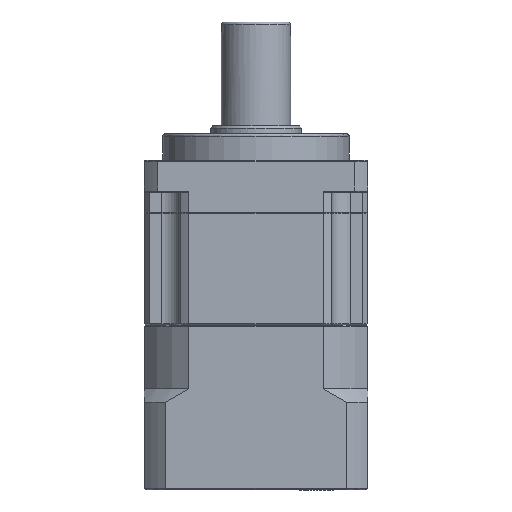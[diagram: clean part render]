
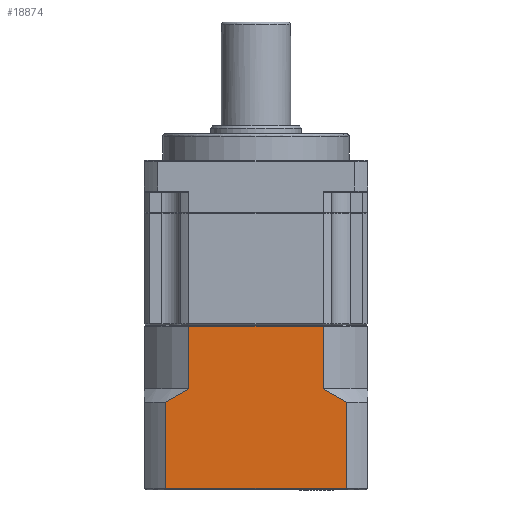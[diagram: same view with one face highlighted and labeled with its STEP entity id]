
A CAD part, front view. The second image highlights one B-rep face of the part: STEP entity #18874.
In plain terms, the highlighted planar face has unit normal (0, -1, 0).
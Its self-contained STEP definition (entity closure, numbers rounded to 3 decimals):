
#1605 = VERTEX_POINT ( 'NONE', #74216 ) ;
#2560 = VERTEX_POINT ( 'NONE', #5291 ) ;
#4309 = CARTESIAN_POINT ( 'NONE',  ( 16.75, 4.708, 31.239 ) ) ;
#5291 = CARTESIAN_POINT ( 'NONE',  ( 41.989, 4.708, 31.239 ) ) ;
#10215 = ORIENTED_EDGE ( 'NONE', *, *, #18299, .F. ) ;
#10836 = EDGE_CURVE ( 'NONE', #39083, #66459, #52018, .T. ) ;
#11610 = VECTOR ( 'NONE', #40054, 1000. ) ;
#11837 = ORIENTED_EDGE ( 'NONE', *, *, #56195, .F. ) ;
#13863 = VECTOR ( 'NONE', #83732, 1000. ) ;
#14402 = CARTESIAN_POINT ( 'NONE',  ( 16.75, 4.708, 19.439 ) ) ;
#14875 = CARTESIAN_POINT ( 'NONE',  ( 46.34, 4.708, 16.939 ) ) ;
#15762 = VECTOR ( 'NONE', #68507, 1000. ) ;
#17590 = VERTEX_POINT ( 'NONE', #132790 ) ;
#18299 = EDGE_CURVE ( 'NONE', #74764, #17590, #123959, .T. ) ;
#18874 = ADVANCED_FACE ( 'NONE', ( #132146 ), #103086, .F. ) ;
#19223 = EDGE_LOOP ( 'NONE', ( #131161, #11837, #104455, #10215, #94439, #98489, #44550, #125273 ) ) ;
#23878 = CARTESIAN_POINT ( 'NONE',  ( 41.989, 4.708, 0.439 ) ) ;
#25516 = LINE ( 'NONE', #59490, #15762 ) ;
#26667 = EDGE_CURVE ( 'NONE', #66459, #74764, #25516, .T. ) ;
#27989 = VECTOR ( 'NONE', #84203, 1000. ) ;
#28355 = CARTESIAN_POINT ( 'NONE',  ( 41.989, 4.708, 19.439 ) ) ;
#31069 = LINE ( 'NONE', #31397, #11610 ) ;
#31397 = CARTESIAN_POINT ( 'NONE',  ( 12.399, 4.708, 0.439 ) ) ;
#39083 = VERTEX_POINT ( 'NONE', #64672 ) ;
#40054 = DIRECTION ( 'NONE',  ( 0., 0., 1. ) ) ;
#44550 = ORIENTED_EDGE ( 'NONE', *, *, #131499, .F. ) ;
#47370 = CARTESIAN_POINT ( 'NONE',  ( 46.34, 4.708, 16.939 ) ) ;
#52018 = B_SPLINE_CURVE_WITH_KNOTS ( 'NONE', 3,
 ( #28355, #89556, #110209, #47370 ),
 .UNSPECIFIED., .F., .F.,
 ( 4, 4 ),
 ( 0., 0.005 ),
 .UNSPECIFIED. ) ;
#52760 = VECTOR ( 'NONE', #133980, 1000. ) ;
#55549 = LINE ( 'NONE', #23878, #27989 ) ;
#56195 = EDGE_CURVE ( 'NONE', #1605, #119093, #125780, .T. ) ;
#59490 = CARTESIAN_POINT ( 'NONE',  ( 46.34, 4.708, 0.439 ) ) ;
#59914 = AXIS2_PLACEMENT_3D ( 'NONE', #62425, #73258, #74141 ) ;
#61247 = EDGE_CURVE ( 'NONE', #2560, #77730, #67587, .T. ) ;
#61658 = EDGE_CURVE ( 'NONE', #119093, #77730, #128744, .T. ) ;
#62425 = CARTESIAN_POINT ( 'NONE',  ( 8.369, 4.708, 0.439 ) ) ;
#64672 = CARTESIAN_POINT ( 'NONE',  ( 41.989, 4.708, 19.439 ) ) ;
#66459 = VERTEX_POINT ( 'NONE', #14875 ) ;
#67587 = LINE ( 'NONE', #84329, #112808 ) ;
#68507 = DIRECTION ( 'NONE',  ( 0., 0., -1. ) ) ;
#72522 = EDGE_CURVE ( 'NONE', #17590, #1605, #31069, .T. ) ;
#73258 = DIRECTION ( 'NONE',  ( 0., 1., 0. ) ) ;
#74141 = DIRECTION ( 'NONE',  ( 1., 0., 0. ) ) ;
#74216 = CARTESIAN_POINT ( 'NONE',  ( 12.399, 4.708, 16.939 ) ) ;
#74764 = VERTEX_POINT ( 'NONE', #74865 ) ;
#74865 = CARTESIAN_POINT ( 'NONE',  ( 46.34, 4.708, 0.739 ) ) ;
#77730 = VERTEX_POINT ( 'NONE', #4309 ) ;
#78528 = CARTESIAN_POINT ( 'NONE',  ( 13.816, 4.708, 17.83 ) ) ;
#80814 = CARTESIAN_POINT ( 'NONE',  ( 15.261, 4.708, 18.672 ) ) ;
#83732 = DIRECTION ( 'NONE',  ( 0., 0., 1. ) ) ;
#84203 = DIRECTION ( 'NONE',  ( 0., 0., -1. ) ) ;
#84329 = CARTESIAN_POINT ( 'NONE',  ( 8.369, 4.708, 31.239 ) ) ;
#89556 = CARTESIAN_POINT ( 'NONE',  ( 43.477, 4.708, 18.672 ) ) ;
#93219 = CARTESIAN_POINT ( 'NONE',  ( 16.75, 4.708, 19.439 ) ) ;
#94439 = ORIENTED_EDGE ( 'NONE', *, *, #26667, .F. ) ;
#98489 = ORIENTED_EDGE ( 'NONE', *, *, #10836, .F. ) ;
#103086 = PLANE ( 'NONE',  #59914 ) ;
#104455 = ORIENTED_EDGE ( 'NONE', *, *, #72522, .F. ) ;
#110209 = CARTESIAN_POINT ( 'NONE',  ( 44.923, 4.708, 17.83 ) ) ;
#112808 = VECTOR ( 'NONE', #127115, 1000. ) ;
#113111 = CARTESIAN_POINT ( 'NONE',  ( 8.369, 4.708, 0.739 ) ) ;
#119093 = VERTEX_POINT ( 'NONE', #14402 ) ;
#123959 = LINE ( 'NONE', #113111, #52760 ) ;
#125273 = ORIENTED_EDGE ( 'NONE', *, *, #61247, .T. ) ;
#125780 = B_SPLINE_CURVE_WITH_KNOTS ( 'NONE', 3,
 ( #129965, #78528, #80814, #133152 ),
 .UNSPECIFIED., .F., .F.,
 ( 4, 4 ),
 ( 0., 0.005 ),
 .UNSPECIFIED. ) ;
#127115 = DIRECTION ( 'NONE',  ( -1., 0., 0. ) ) ;
#128744 = LINE ( 'NONE', #93219, #13863 ) ;
#129965 = CARTESIAN_POINT ( 'NONE',  ( 12.399, 4.708, 16.939 ) ) ;
#131161 = ORIENTED_EDGE ( 'NONE', *, *, #61658, .F. ) ;
#131499 = EDGE_CURVE ( 'NONE', #2560, #39083, #55549, .T. ) ;
#132146 = FACE_OUTER_BOUND ( 'NONE', #19223, .T. ) ;
#132790 = CARTESIAN_POINT ( 'NONE',  ( 12.399, 4.708, 0.739 ) ) ;
#133152 = CARTESIAN_POINT ( 'NONE',  ( 16.75, 4.708, 19.439 ) ) ;
#133980 = DIRECTION ( 'NONE',  ( -1., 0., 0. ) ) ;
